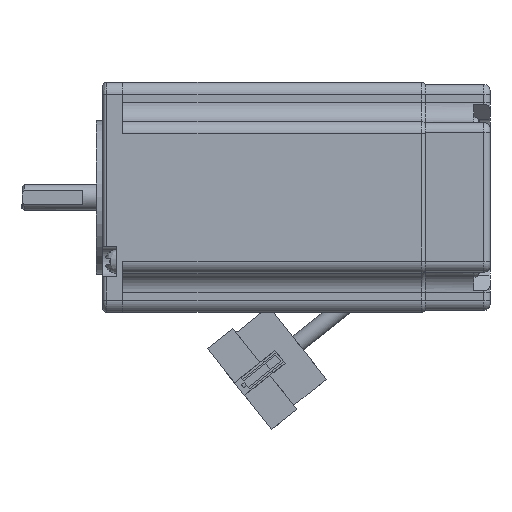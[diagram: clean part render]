
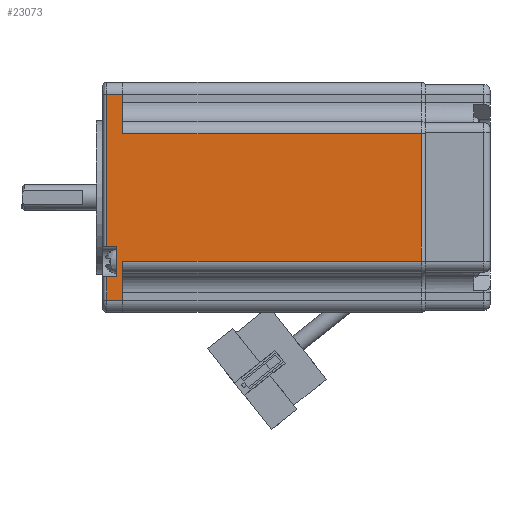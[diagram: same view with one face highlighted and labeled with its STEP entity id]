
A CAD part, front view. The second image highlights one B-rep face of the part: STEP entity #23073.
In plain terms, the highlighted planar face has unit normal (0, -1, 0) as drawn and (0, 1, 0) by its records, which use the part's own axes.
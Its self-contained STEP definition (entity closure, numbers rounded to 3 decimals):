
#36 = VERTEX_POINT ( 'NONE', #11751 ) ;
#347 = VECTOR ( 'NONE', #24775, 1000. ) ;
#371 = VECTOR ( 'NONE', #9688, 1000. ) ;
#414 = LINE ( 'NONE', #22870, #347 ) ;
#745 = VERTEX_POINT ( 'NONE', #5102 ) ;
#1614 = LINE ( 'NONE', #23291, #371 ) ;
#1645 = CARTESIAN_POINT ( 'NONE',  ( 17.711, -121.243, -24. ) ) ;
#2164 = DIRECTION ( 'NONE',  ( 0., 0., 1. ) ) ;
#2775 = CARTESIAN_POINT ( 'NONE',  ( -33.289, -121.243, -24. ) ) ;
#3007 = CARTESIAN_POINT ( 'NONE',  ( 20.711, -121.243, -20. ) ) ;
#3024 = EDGE_CURVE ( 'NONE', #36, #10218, #17641, .T. ) ;
#3196 = LINE ( 'NONE', #4573, #3254 ) ;
#3254 = VECTOR ( 'NONE', #18224, 1000. ) ;
#3507 = FACE_OUTER_BOUND ( 'NONE', #11957, .T. ) ;
#3734 = ORIENTED_EDGE ( 'NONE', *, *, #17781, .T. ) ;
#4516 = ORIENTED_EDGE ( 'NONE', *, *, #20980, .T. ) ;
#4573 = CARTESIAN_POINT ( 'NONE',  ( 20.711, -121.243, -22.5 ) ) ;
#4648 = VECTOR ( 'NONE', #9710, 1000. ) ;
#4689 = LINE ( 'NONE', #7819, #4648 ) ;
#5002 = CARTESIAN_POINT ( 'NONE',  ( 7.981, -121.243, -24. ) ) ;
#5102 = CARTESIAN_POINT ( 'NONE',  ( -33.289, -121.243, -20. ) ) ;
#5878 = DIRECTION ( 'NONE',  ( 0., 0., -1. ) ) ;
#5951 = CARTESIAN_POINT ( 'NONE',  ( -23.559, -121.243, -100. ) ) ;
#6069 = ORIENTED_EDGE ( 'NONE', *, *, #18746, .T. ) ;
#6727 = EDGE_CURVE ( 'NONE', #15955, #20021, #414, .T. ) ;
#7283 = ORIENTED_EDGE ( 'NONE', *, *, #13415, .T. ) ;
#7603 = VERTEX_POINT ( 'NONE', #19920 ) ;
#7819 = CARTESIAN_POINT ( 'NONE',  ( 20.711, -121.243, -24. ) ) ;
#8649 = DIRECTION ( 'NONE',  ( 1., 0., 0. ) ) ;
#8768 = AXIS2_PLACEMENT_3D ( 'NONE', #10707, #24249, #12691 ) ;
#9688 = DIRECTION ( 'NONE',  ( 0., 0., 1. ) ) ;
#9710 = DIRECTION ( 'NONE',  ( -1., 0., 0. ) ) ;
#9855 = VERTEX_POINT ( 'NONE', #12484 ) ;
#10218 = VERTEX_POINT ( 'NONE', #11699 ) ;
#10414 = DIRECTION ( 'NONE',  ( 0., 0., -1. ) ) ;
#10417 = LINE ( 'NONE', #23975, #10536 ) ;
#10536 = VECTOR ( 'NONE', #10414, 1000. ) ;
#10707 = CARTESIAN_POINT ( 'NONE',  ( 20.711, -121.243, -100. ) ) ;
#10900 = ORIENTED_EDGE ( 'NONE', *, *, #18399, .T. ) ;
#11685 = EDGE_CURVE ( 'NONE', #16982, #15955, #3196, .T. ) ;
#11699 = CARTESIAN_POINT ( 'NONE',  ( -23.559, -121.243, -98. ) ) ;
#11751 = CARTESIAN_POINT ( 'NONE',  ( 7.981, -121.243, -98. ) ) ;
#11957 = EDGE_LOOP ( 'NONE', ( #18178, #17529, #21627, #4516, #3734, #7283, #14997, #16273, #18708, #6069, #10900, #18120 ) ) ;
#12006 = VERTEX_POINT ( 'NONE', #1645 ) ;
#12390 = LINE ( 'NONE', #16711, #12478 ) ;
#12478 = VECTOR ( 'NONE', #16782, 1000. ) ;
#12484 = CARTESIAN_POINT ( 'NONE',  ( 17.711, -121.243, -20. ) ) ;
#12691 = DIRECTION ( 'NONE',  ( 0., 0., 1. ) ) ;
#12746 = DIRECTION ( 'NONE',  ( -1., 0., 0. ) ) ;
#13253 = VECTOR ( 'NONE', #2164, 1000. ) ;
#13415 = EDGE_CURVE ( 'NONE', #745, #13530, #16927, .T. ) ;
#13526 = VERTEX_POINT ( 'NONE', #5002 ) ;
#13530 = VERTEX_POINT ( 'NONE', #18648 ) ;
#13849 = LINE ( 'NONE', #15903, #13253 ) ;
#13883 = EDGE_CURVE ( 'NONE', #36, #13526, #13849, .T. ) ;
#14440 = CARTESIAN_POINT ( 'NONE',  ( 4.411, -121.243, -22.5 ) ) ;
#14997 = ORIENTED_EDGE ( 'NONE', *, *, #21409, .T. ) ;
#15858 = VECTOR ( 'NONE', #19616, 1000. ) ;
#15903 = CARTESIAN_POINT ( 'NONE',  ( 7.981, -121.243, -24. ) ) ;
#15955 = VERTEX_POINT ( 'NONE', #21145 ) ;
#16133 = LINE ( 'NONE', #5951, #15858 ) ;
#16273 = ORIENTED_EDGE ( 'NONE', *, *, #11685, .T. ) ;
#16711 = CARTESIAN_POINT ( 'NONE',  ( 20.711, -121.243, -24. ) ) ;
#16738 = DIRECTION ( 'NONE',  ( 1., 0., 0. ) ) ;
#16782 = DIRECTION ( 'NONE',  ( -1., 0., 0. ) ) ;
#16927 = LINE ( 'NONE', #22261, #16952 ) ;
#16952 = VECTOR ( 'NONE', #8649, 1000. ) ;
#16982 = VERTEX_POINT ( 'NONE', #14440 ) ;
#17529 = ORIENTED_EDGE ( 'NONE', *, *, #3024, .T. ) ;
#17592 = CARTESIAN_POINT ( 'NONE',  ( 17.711, -121.243, -100. ) ) ;
#17597 = VECTOR ( 'NONE', #12746, 1000. ) ;
#17641 = LINE ( 'NONE', #20470, #17597 ) ;
#17781 = EDGE_CURVE ( 'NONE', #21484, #745, #1614, .T. ) ;
#18120 = ORIENTED_EDGE ( 'NONE', *, *, #22789, .T. ) ;
#18178 = ORIENTED_EDGE ( 'NONE', *, *, #13883, .F. ) ;
#18224 = DIRECTION ( 'NONE',  ( 1., 0., 0. ) ) ;
#18399 = EDGE_CURVE ( 'NONE', #9855, #12006, #22991, .T. ) ;
#18648 = CARTESIAN_POINT ( 'NONE',  ( 4.411, -121.243, -20. ) ) ;
#18708 = ORIENTED_EDGE ( 'NONE', *, *, #6727, .T. ) ;
#18746 = EDGE_CURVE ( 'NONE', #20021, #9855, #21638, .T. ) ;
#19616 = DIRECTION ( 'NONE',  ( 0., 0., 1. ) ) ;
#19920 = CARTESIAN_POINT ( 'NONE',  ( -23.559, -121.243, -24. ) ) ;
#20021 = VERTEX_POINT ( 'NONE', #22919 ) ;
#20137 = EDGE_CURVE ( 'NONE', #10218, #7603, #16133, .T. ) ;
#20470 = CARTESIAN_POINT ( 'NONE',  ( 20.711, -121.243, -98. ) ) ;
#20980 = EDGE_CURVE ( 'NONE', #7603, #21484, #12390, .T. ) ;
#21145 = CARTESIAN_POINT ( 'NONE',  ( 11.811, -121.243, -22.5 ) ) ;
#21409 = EDGE_CURVE ( 'NONE', #13530, #16982, #10417, .T. ) ;
#21484 = VERTEX_POINT ( 'NONE', #2775 ) ;
#21614 = VECTOR ( 'NONE', #16738, 1000. ) ;
#21627 = ORIENTED_EDGE ( 'NONE', *, *, #20137, .T. ) ;
#21638 = LINE ( 'NONE', #3007, #21614 ) ;
#22261 = CARTESIAN_POINT ( 'NONE',  ( 20.711, -121.243, -20. ) ) ;
#22365 = PLANE ( 'NONE',  #8768 ) ;
#22789 = EDGE_CURVE ( 'NONE', #12006, #13526, #4689, .T. ) ;
#22870 = CARTESIAN_POINT ( 'NONE',  ( 11.811, -121.243, -100. ) ) ;
#22919 = CARTESIAN_POINT ( 'NONE',  ( 11.811, -121.243, -20. ) ) ;
#22971 = VECTOR ( 'NONE', #5878, 1000. ) ;
#22991 = LINE ( 'NONE', #17592, #22971 ) ;
#23073 = ADVANCED_FACE ( 'NONE', ( #3507 ), #22365, .T. ) ;
#23291 = CARTESIAN_POINT ( 'NONE',  ( -33.289, -121.243, -100. ) ) ;
#23975 = CARTESIAN_POINT ( 'NONE',  ( 4.411, -121.243, -100. ) ) ;
#24249 = DIRECTION ( 'NONE',  ( 0., 1., 0. ) ) ;
#24775 = DIRECTION ( 'NONE',  ( 0., 0., 1. ) ) ;
